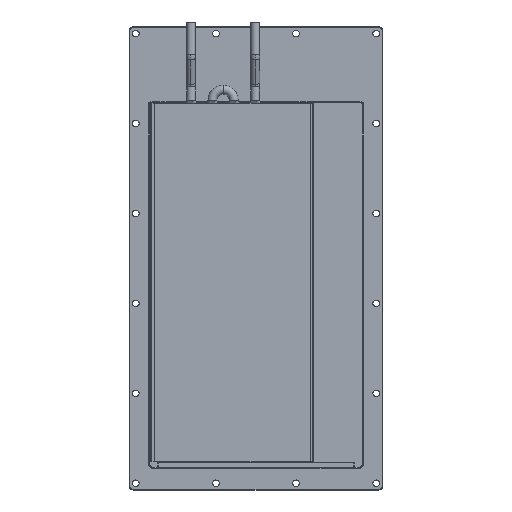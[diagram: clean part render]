
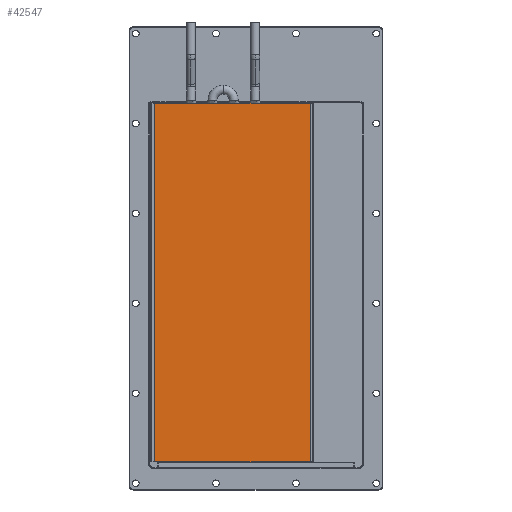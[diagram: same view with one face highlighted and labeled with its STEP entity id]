
A CAD part, front view. The second image highlights one B-rep face of the part: STEP entity #42547.
In plain terms, the highlighted planar face has unit normal (0, -1, 0).
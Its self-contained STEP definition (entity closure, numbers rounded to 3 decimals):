
#50 = CARTESIAN_POINT ( 'NONE',  ( -87.5, 1., 0. ) ) ;
#2063 = ORIENTED_EDGE ( 'NONE', *, *, #7159, .F. ) ;
#2858 = VERTEX_POINT ( 'NONE', #34041 ) ;
#2884 = LINE ( 'NONE', #60403, #43357 ) ;
#5614 = LINE ( 'NONE', #105251, #65252 ) ;
#7159 = EDGE_CURVE ( 'NONE', #23411, #2858, #2884, .T. ) ;
#10881 = ORIENTED_EDGE ( 'NONE', *, *, #59310, .F. ) ;
#20745 = EDGE_CURVE ( 'NONE', #23411, #32379, #50118, .T. ) ;
#21854 = VERTEX_POINT ( 'NONE', #82095 ) ;
#23411 = VERTEX_POINT ( 'NONE', #81820 ) ;
#25644 = DIRECTION ( 'NONE',  ( 0., 0., -1. ) ) ;
#32379 = VERTEX_POINT ( 'NONE', #50 ) ;
#34041 = CARTESIAN_POINT ( 'NONE',  ( 87.5, 1., 403. ) ) ;
#35932 = PLANE ( 'NONE',  #80367 ) ;
#42547 = ADVANCED_FACE ( 'NONE', ( #62030 ), #35932, .T. ) ;
#43357 = VECTOR ( 'NONE', #76910, 1000. ) ;
#46619 = ORIENTED_EDGE ( 'NONE', *, *, #20745, .T. ) ;
#47657 = DIRECTION ( 'NONE',  ( 0., -1., 0. ) ) ;
#50118 = LINE ( 'NONE', #74103, #61647 ) ;
#52087 = DIRECTION ( 'NONE',  ( 0., 0., -1. ) ) ;
#57962 = LINE ( 'NONE', #83021, #97184 ) ;
#59310 = EDGE_CURVE ( 'NONE', #21854, #32379, #5614, .T. ) ;
#60403 = CARTESIAN_POINT ( 'NONE',  ( -87.5, 1., 403. ) ) ;
#61647 = VECTOR ( 'NONE', #25644, 1000. ) ;
#62030 = FACE_OUTER_BOUND ( 'NONE', #62073, .T. ) ;
#62073 = EDGE_LOOP ( 'NONE', ( #2063, #46619, #10881, #93864 ) ) ;
#65252 = VECTOR ( 'NONE', #95146, 1000. ) ;
#71631 = CARTESIAN_POINT ( 'NONE',  ( -87.5, 1., 587.09 ) ) ;
#74103 = CARTESIAN_POINT ( 'NONE',  ( -87.5, 1., 587.09 ) ) ;
#76910 = DIRECTION ( 'NONE',  ( 1., 0., 0. ) ) ;
#80367 = AXIS2_PLACEMENT_3D ( 'NONE', #71631, #47657, #88143 ) ;
#81820 = CARTESIAN_POINT ( 'NONE',  ( -87.5, 1., 403. ) ) ;
#82095 = CARTESIAN_POINT ( 'NONE',  ( 87.5, 1., 0. ) ) ;
#83021 = CARTESIAN_POINT ( 'NONE',  ( 87.5, 1., 587.09 ) ) ;
#88143 = DIRECTION ( 'NONE',  ( 1., 0., 0. ) ) ;
#93294 = EDGE_CURVE ( 'NONE', #2858, #21854, #57962, .T. ) ;
#93864 = ORIENTED_EDGE ( 'NONE', *, *, #93294, .F. ) ;
#95146 = DIRECTION ( 'NONE',  ( -1., 0., 0. ) ) ;
#97184 = VECTOR ( 'NONE', #52087, 1000. ) ;
#105251 = CARTESIAN_POINT ( 'NONE',  ( -87.5, 1., 0. ) ) ;
